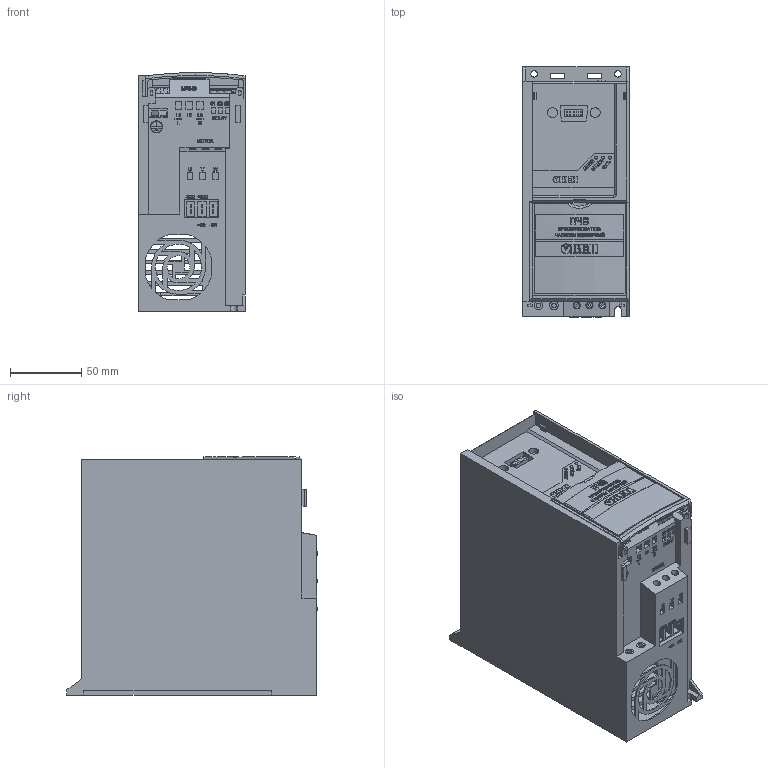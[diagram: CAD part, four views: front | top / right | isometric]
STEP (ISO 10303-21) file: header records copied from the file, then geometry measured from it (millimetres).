
FILE_DESCRIPTION (( 'STEP AP214' ), '1' );
FILE_NAME ('3D 沓麧錪 瓬獷x2.STEP', '2016-05-17T11:26:54', ( '' ), ( '' ), 'SwSTEP 2.0', 'SolidWorks 2014', '' );
FILE_SCHEMA (( 'AUTOMOTIVE_DESIGN' ));
Length unit declared in the file: millimetre
Products named in the file (8): DIP-ïåðåêëþ÷àòåëü 4ïîç smd; 瓬謬02_膰豵鵨; 3D 沓麧錪 瓬獷x2; Êëåììà_10õ13õ5ìì ÷åðí; 抔樦憵 SMKDS 1-12-3,5; 署赅 献聏x2; curved spring lock washer 2_din_DIN 6904-5.4-FSt; hex bolt gradec_din_ISO 4016 - M6 x 30 x 18-WN
Assembly tree (9 placements, depth 2):
  3D 沓麧錪 瓬獷x2
    瓬謬02_膰豵鵨
    DIP-ïåðåêëþ÷àòåëü 4ïîç smd
    hex bolt gradec_din_ISO 4016 - M6 x 30 x 18-WN
    curved spring lock washer 2_din_DIN 6904-5.4-FSt
    署赅 献聏x2
    抔樦憵 SMKDS 1-12-3,5
    Êëåììà_10õ13õ5ìì ÷åðí  x3
Bounding box: 75 x 176.25 x 168 mm (x, y, z)
Volume: 491561 mm3; surface area: 358249.1 mm2
Topology: 15 solids, 20 shells, 3116 faces, 8118 edges, 5383 vertices
Faces by surface type: plane 2197, bspline 535, cylinder 370, cone 12, torus 2
Entity records: 147617 total; most frequent: CARTESIAN_POINT 60451, ORIENTED_EDGE 15796, DIRECTION 12543, EDGE_CURVE 7898, VECTOR 5511, LINE 5511, VERTEX_POINT 5239, AXIS2_PLACEMENT_3D 3516
